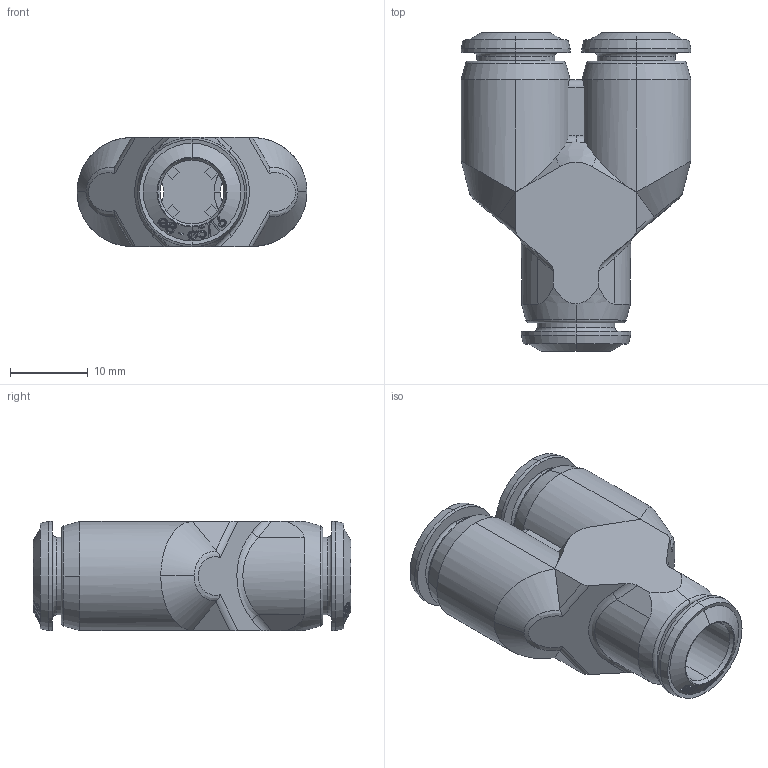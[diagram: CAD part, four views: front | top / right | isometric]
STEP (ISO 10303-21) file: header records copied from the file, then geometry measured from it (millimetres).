
FILE_DESCRIPTION (( 'STEP AP214' ), '1' );
FILE_NAME ('5531000005.STEP', '2018-03-14T10:35:35', ( '' ), ( '' ), 'SwSTEP 2.0', 'SolidWorks 2016', '' );
FILE_SCHEMA (( 'AUTOMOTIVE_DESIGN' ));
Length unit declared in the file: millimetre
Products named in the file (1): 5531000005
Bounding box: 29.5 x 40.8 x 14 mm (x, y, z)
Volume: 6367.4 mm3; surface area: 5277.4 mm2
Topology: 1 solids, 1 shells, 521 faces, 1389 edges, 909 vertices
Faces by surface type: bspline 299, cone 104, cylinder 52, plane 51, torus 15
Entity records: 39009 total; most frequent: CARTESIAN_POINT 23334, ORIENTED_EDGE 2774, EDGE_CURVE 1387, B_SPLINE_CURVE_WITH_KNOTS 999, DIRECTION 994, VERTEX_POINT 909, EDGE_LOOP 566, ADVANCED_FACE 521
